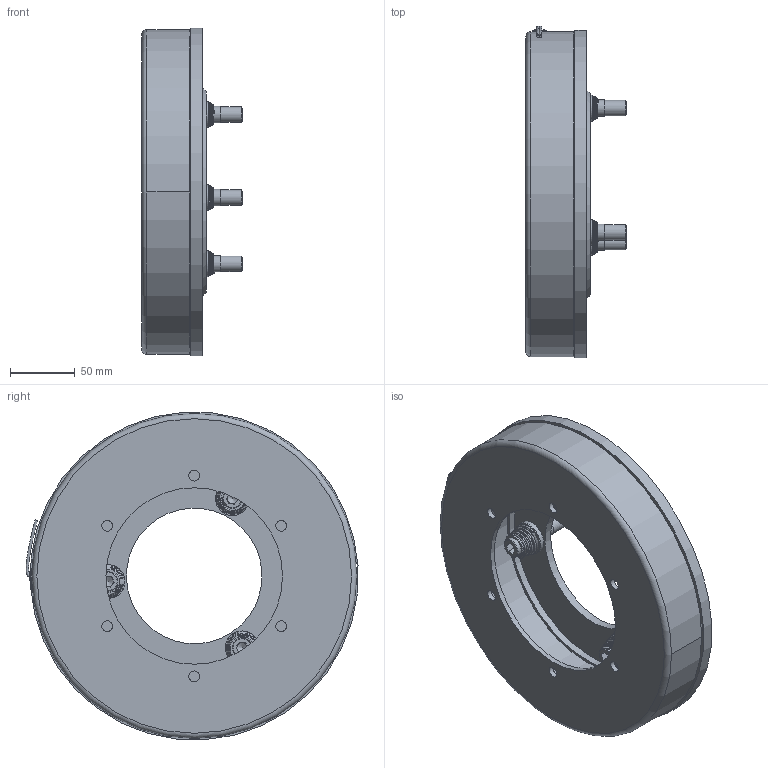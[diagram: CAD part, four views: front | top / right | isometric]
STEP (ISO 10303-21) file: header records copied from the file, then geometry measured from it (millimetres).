
FILE_DESCRIPTION(/* description */ (''),/* implementation_level */ '2;1');
FILE_NAME(/* name */ 'X:\INVENTOR\DISEGNI\08_Freni_Friz_Elettmag_Monodisco\08_04 EMF\08_04_255_01 EMF255\08_04_255_01 EMF255@STEP.stp',/* time_stamp */ '2023-02-15T15:51:03+01:00',/* author */ ('alessio'),/* organization */ (''),/* preprocessor_version */ 'ST-DEVELOPER v18.1',/* originating_system */ 'Autodesk Inventor 2021',/* authorisation */ '');
FILE_SCHEMA (('AUTOMOTIVE_DESIGN { 1 0 10303 214 3 1 1 }'));
Length unit declared in the file: millimetre
Products named in the file (1): 08_04_255_01 EMF255
Bounding box: 77.87 x 256.92 x 253.47 mm (x, y, z)
Volume: 1258168.5 mm3; surface area: 262038.5 mm2
Topology: 9 solids, 26 shells, 415 faces, 926 edges, 589 vertices
Faces by surface type: cylinder 195, plane 184, cone 20, bspline 9, torus 7
Full cylindrical faces by diameter (mm): 1.7 x12, 2 x6, 4 x1, 8.1 x3, 8.5 x7, 11 x9, 12 x3, 12.5 x3, 12.7 x3, 15 x9, 20 x3, 26 x6, 105 x1, 136.6 x1, 172 x1, 174 x1, 186 x2, 192 x1, 193 x1, 237 x1, 238 x1, 244 x2, 254 x1
Entity records: 16469 total; most frequent: CARTESIAN_POINT 6382, DIRECTION 2154, ORIENTED_EDGE 1848, EDGE_CURVE 924, AXIS2_PLACEMENT_3D 864, VERTEX_POINT 590, EDGE_LOOP 505, CIRCLE 457
